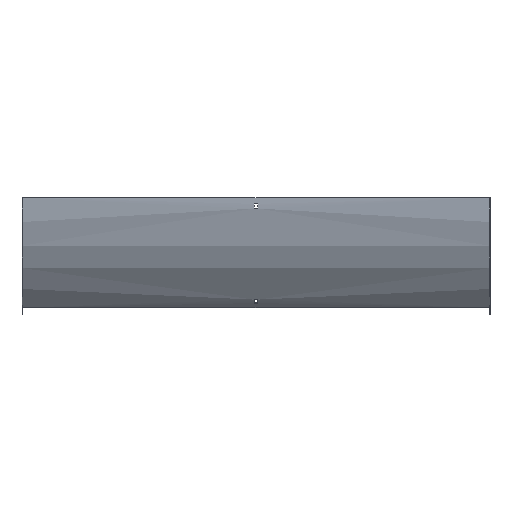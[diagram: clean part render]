
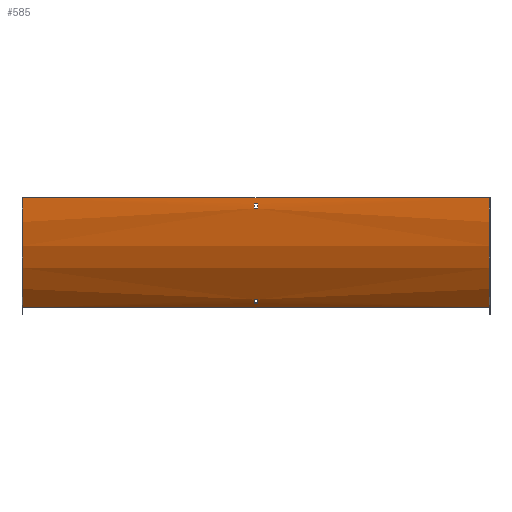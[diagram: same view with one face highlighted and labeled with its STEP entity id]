
A CAD part, front view. The second image highlights one B-rep face of the part: STEP entity #585.
In plain terms, the highlighted cylindrical face has radius 300 mm (diameter 600 mm), a partial arc.
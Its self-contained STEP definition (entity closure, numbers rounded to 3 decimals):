
#14 = CARTESIAN_POINT ( 'NONE',  ( 3.25, -1.26, -12. ) ) ;
#24 = ORIENTED_EDGE ( 'NONE', *, *, #437, .F. ) ;
#29 = CIRCLE ( 'NONE', #386, 300. ) ;
#33 = VECTOR ( 'NONE', #473, 1000. ) ;
#45 = CARTESIAN_POINT ( 'NONE',  ( 450., -1.5, 0. ) ) ;
#48 = EDGE_CURVE ( 'NONE', #256, #566, #161, .T. ) ;
#54 = VERTEX_POINT ( 'NONE', #196 ) ;
#58 = VERTEX_POINT ( 'NONE', #14 ) ;
#61 = EDGE_CURVE ( 'NONE', #544, #146, #29, .T. ) ;
#62 = LINE ( 'NONE', #117, #267 ) ;
#64 = EDGE_CURVE ( 'NONE', #418, #519, #62, .T. ) ;
#65 = DIRECTION ( 'NONE',  ( 0., 0., -1. ) ) ;
#67 = CARTESIAN_POINT ( 'NONE',  ( 450., 298.5, 0. ) ) ;
#76 = ORIENTED_EDGE ( 'NONE', *, *, #144, .F. ) ;
#86 = EDGE_LOOP ( 'NONE', ( #434, #453, #427, #420 ) ) ;
#106 = DIRECTION ( 'NONE',  ( -1., 0., 0. ) ) ;
#109 = CARTESIAN_POINT ( 'NONE',  ( 3.25, 298.5, 0. ) ) ;
#112 = FACE_OUTER_BOUND ( 'NONE', #600, .T. ) ;
#114 = AXIS2_PLACEMENT_3D ( 'NONE', #487, #254, #363 ) ;
#117 = CARTESIAN_POINT ( 'NONE',  ( 451.5, -0.764, -21. ) ) ;
#123 = CARTESIAN_POINT ( 'NONE',  ( 451.5, 78.052, -203.477 ) ) ;
#128 = EDGE_CURVE ( 'NONE', #177, #492, #264, .T. ) ;
#138 = VERTEX_POINT ( 'NONE', #410 ) ;
#142 = CARTESIAN_POINT ( 'NONE',  ( 451.5, 298.5, 0. ) ) ;
#144 = EDGE_CURVE ( 'NONE', #54, #418, #358, .T. ) ;
#146 = VERTEX_POINT ( 'NONE', #166 ) ;
#148 = CARTESIAN_POINT ( 'NONE',  ( -3.25, -0.764, -21. ) ) ;
#152 = LINE ( 'NONE', #447, #569 ) ;
#161 = CIRCLE ( 'NONE', #395, 300. ) ;
#163 = CARTESIAN_POINT ( 'NONE',  ( -3.25, 78.052, -203.477 ) ) ;
#166 = CARTESIAN_POINT ( 'NONE',  ( 3.25, 78.052, -203.477 ) ) ;
#177 = VERTEX_POINT ( 'NONE', #502 ) ;
#179 = EDGE_CURVE ( 'NONE', #492, #459, #361, .T. ) ;
#182 = ORIENTED_EDGE ( 'NONE', *, *, #128, .T. ) ;
#196 = CARTESIAN_POINT ( 'NONE',  ( -3.25, -1.26, -12. ) ) ;
#204 = DIRECTION ( 'NONE',  ( -1., 0., 0. ) ) ;
#205 = DIRECTION ( 'NONE',  ( 1., 0., 0. ) ) ;
#208 = DIRECTION ( 'NONE',  ( 1., 0., 0. ) ) ;
#210 = CARTESIAN_POINT ( 'NONE',  ( -450., 298.5, 0. ) ) ;
#212 = DIRECTION ( 'NONE',  ( 0., 0., 1. ) ) ;
#225 = ORIENTED_EDGE ( 'NONE', *, *, #506, .F. ) ;
#228 = AXIS2_PLACEMENT_3D ( 'NONE', #297, #488, #498 ) ;
#230 = ORIENTED_EDGE ( 'NONE', *, *, #422, .F. ) ;
#238 = FACE_BOUND ( 'NONE', #595, .T. ) ;
#251 = CYLINDRICAL_SURFACE ( 'NONE', #497, 300. ) ;
#254 = DIRECTION ( 'NONE',  ( -1., 0., 0. ) ) ;
#256 = VERTEX_POINT ( 'NONE', #163 ) ;
#259 = DIRECTION ( 'NONE',  ( -1., 0., 0. ) ) ;
#264 = CIRCLE ( 'NONE', #476, 300. ) ;
#267 = VECTOR ( 'NONE', #208, 1000. ) ;
#295 = DIRECTION ( 'NONE',  ( 0., 0., 1. ) ) ;
#297 = CARTESIAN_POINT ( 'NONE',  ( -3.25, 298.5, 0. ) ) ;
#299 = CARTESIAN_POINT ( 'NONE',  ( 3.25, 72.039, -196.762 ) ) ;
#305 = FACE_BOUND ( 'NONE', #86, .T. ) ;
#310 = EDGE_CURVE ( 'NONE', #566, #544, #332, .T. ) ;
#317 = CARTESIAN_POINT ( 'NONE',  ( -450., -1.5, 0. ) ) ;
#321 = VECTOR ( 'NONE', #543, 1000. ) ;
#332 = LINE ( 'NONE', #557, #33 ) ;
#354 = AXIS2_PLACEMENT_3D ( 'NONE', #210, #494, #581 ) ;
#358 = CIRCLE ( 'NONE', #228, 300. ) ;
#361 = LINE ( 'NONE', #411, #321 ) ;
#363 = DIRECTION ( 'NONE',  ( 0., 0., -1. ) ) ;
#378 = CIRCLE ( 'NONE', #114, 300. ) ;
#380 = DIRECTION ( 'NONE',  ( -1., 0., 0. ) ) ;
#386 = AXIS2_PLACEMENT_3D ( 'NONE', #109, #205, #398 ) ;
#395 = AXIS2_PLACEMENT_3D ( 'NONE', #531, #444, #65 ) ;
#398 = DIRECTION ( 'NONE',  ( 0., 0., 1. ) ) ;
#410 = CARTESIAN_POINT ( 'NONE',  ( -450., 86.368, -212.132 ) ) ;
#411 = CARTESIAN_POINT ( 'NONE',  ( 450., -1.5, 0. ) ) ;
#418 = VERTEX_POINT ( 'NONE', #148 ) ;
#420 = ORIENTED_EDGE ( 'NONE', *, *, #61, .T. ) ;
#422 = EDGE_CURVE ( 'NONE', #519, #58, #378, .T. ) ;
#425 = CIRCLE ( 'NONE', #354, 300. ) ;
#427 = ORIENTED_EDGE ( 'NONE', *, *, #310, .T. ) ;
#430 = CARTESIAN_POINT ( 'NONE',  ( 3.25, -0.764, -21. ) ) ;
#434 = ORIENTED_EDGE ( 'NONE', *, *, #457, .T. ) ;
#437 = EDGE_CURVE ( 'NONE', #138, #459, #425, .T. ) ;
#440 = DIRECTION ( 'NONE',  ( -1., 0., 0. ) ) ;
#444 = DIRECTION ( 'NONE',  ( -1., 0., 0. ) ) ;
#447 = CARTESIAN_POINT ( 'NONE',  ( 451.5, -1.26, -12. ) ) ;
#453 = ORIENTED_EDGE ( 'NONE', *, *, #48, .T. ) ;
#457 = EDGE_CURVE ( 'NONE', #146, #256, #536, .T. ) ;
#459 = VERTEX_POINT ( 'NONE', #317 ) ;
#464 = LINE ( 'NONE', #510, #576 ) ;
#473 = DIRECTION ( 'NONE',  ( 1., 0., 0. ) ) ;
#476 = AXIS2_PLACEMENT_3D ( 'NONE', #67, #106, #212 ) ;
#486 = CARTESIAN_POINT ( 'NONE',  ( -3.25, 72.039, -196.762 ) ) ;
#487 = CARTESIAN_POINT ( 'NONE',  ( 3.25, 298.5, 0. ) ) ;
#488 = DIRECTION ( 'NONE',  ( 1., 0., 0. ) ) ;
#492 = VERTEX_POINT ( 'NONE', #45 ) ;
#494 = DIRECTION ( 'NONE',  ( -1., 0., 0. ) ) ;
#497 = AXIS2_PLACEMENT_3D ( 'NONE', #142, #204, #295 ) ;
#498 = DIRECTION ( 'NONE',  ( 0., 0., 1. ) ) ;
#502 = CARTESIAN_POINT ( 'NONE',  ( 450., 86.368, -212.132 ) ) ;
#505 = ORIENTED_EDGE ( 'NONE', *, *, #602, .F. ) ;
#506 = EDGE_CURVE ( 'NONE', #177, #138, #464, .T. ) ;
#510 = CARTESIAN_POINT ( 'NONE',  ( 450., 86.368, -212.132 ) ) ;
#519 = VERTEX_POINT ( 'NONE', #430 ) ;
#521 = ORIENTED_EDGE ( 'NONE', *, *, #64, .F. ) ;
#531 = CARTESIAN_POINT ( 'NONE',  ( -3.25, 298.5, 0. ) ) ;
#536 = LINE ( 'NONE', #123, #540 ) ;
#540 = VECTOR ( 'NONE', #259, 1000. ) ;
#543 = DIRECTION ( 'NONE',  ( -1., 0., 0. ) ) ;
#544 = VERTEX_POINT ( 'NONE', #299 ) ;
#557 = CARTESIAN_POINT ( 'NONE',  ( 451.5, 72.039, -196.762 ) ) ;
#566 = VERTEX_POINT ( 'NONE', #486 ) ;
#569 = VECTOR ( 'NONE', #440, 1000. ) ;
#574 = ORIENTED_EDGE ( 'NONE', *, *, #179, .T. ) ;
#576 = VECTOR ( 'NONE', #380, 1000. ) ;
#581 = DIRECTION ( 'NONE',  ( 0., 0., 1. ) ) ;
#585 = ADVANCED_FACE ( 'NONE', ( #238, #112, #305 ), #251, .T. ) ;
#595 = EDGE_LOOP ( 'NONE', ( #76, #505, #230, #521 ) ) ;
#600 = EDGE_LOOP ( 'NONE', ( #24, #225, #182, #574 ) ) ;
#602 = EDGE_CURVE ( 'NONE', #58, #54, #152, .T. ) ;
